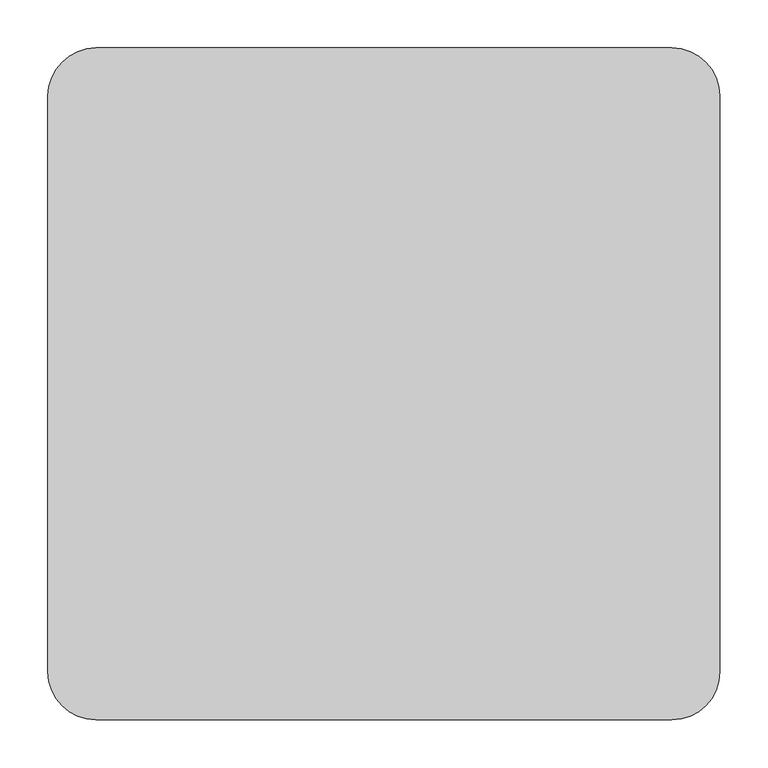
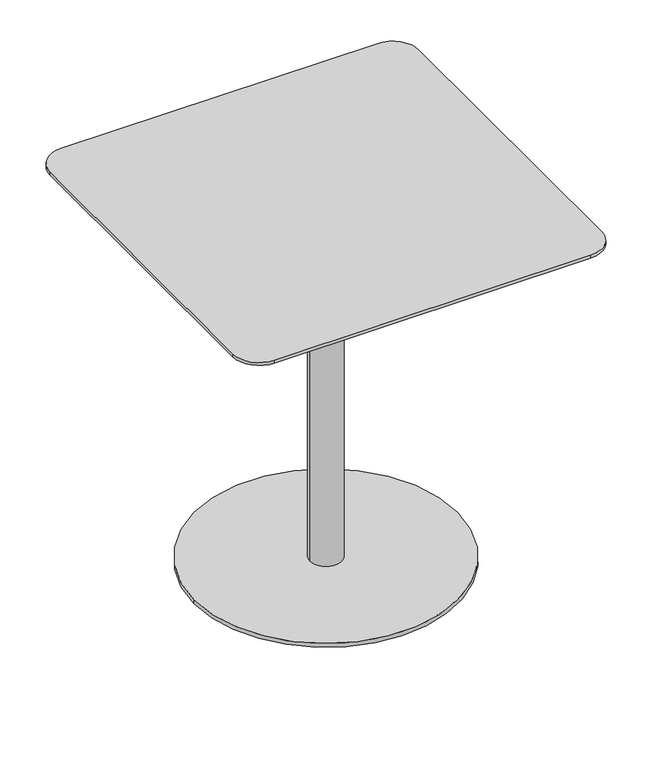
"""IFC4 building model written with IfcOpenShell, lengths in millimetres: furniture geometry, Vestre - Munch - 5134 : Vestre - Munch - 5134."""

from ifc_helpers import new_model, si_unit, point, frame, frame_2d, origin, origin_with_axes, origin_2d, place, context, project, spatial, polyline, circle_curve, trimmed, segment, composite_curve, outline, extrude, source, transform, mapped, element, save


def furniture_e99254da(model_context):
    return source(origin(), model_context, "Body", "SweptSolid", [
        extrude(outline(composite_curve([segment(trimmed(circle_curve(frame_2d((-182.7252773, -105.5634299)), 19.0), [point((-201.7252773, -105.5634299))], [point((-163.7252773, -105.5634299))], False, "CARTESIAN"), True, "CONTINUOUS"), segment(trimmed(circle_curve(frame_2d((-182.7252773, -105.5634299)), 19.0), [point((-163.7252773, -105.5634299))], [point((-201.7252773, -105.5634299))], False, "CARTESIAN"), True, "CONTINUOUS")], self_intersect=False)), origin_with_axes(), (0.0, 0.0, 1.0), 12.0),
        extrude(outline(composite_curve([segment(trimmed(circle_curve(frame_2d((182.7252773, -105.5634299)), 19.0), [point((201.7252773, -105.5634299))], [point((163.7252773, -105.5634299))], False, "CARTESIAN"), True, "CONTINUOUS"), segment(trimmed(circle_curve(frame_2d((182.7252773, -105.5634299)), 19.0), [point((163.7252773, -105.5634299))], [point((201.7252773, -105.5634299))], False, "CARTESIAN"), True, "CONTINUOUS")], self_intersect=False)), origin_with_axes(), (0.0, 0.0, 1.0), 12.0),
        extrude(outline(composite_curve([segment(trimmed(circle_curve(frame_2d((0.0, 211.0)), 19.0), [point((19.0, 211.0))], [point((-19.0, 211.0))], False, "CARTESIAN"), True, "CONTINUOUS"), segment(trimmed(circle_curve(frame_2d((0.0, 211.0)), 19.0), [point((-19.0, 211.0))], [point((19.0, 211.0))], False, "CARTESIAN"), True, "CONTINUOUS")], self_intersect=False)), origin_with_axes(), (0.0, 0.0, 1.0), 12.0),
        extrude(outline(composite_curve([segment(trimmed(circle_curve(origin_2d(), 249.962756), [point((-249.962756, 0.0))], [point((249.962756, 0.0))], False, "CARTESIAN"), True, "CONTINUOUS"), segment(trimmed(circle_curve(origin_2d(), 249.962756), [point((249.962756, 0.0))], [point((-249.962756, 0.0))], False, "CARTESIAN"), True, "CONTINUOUS")], self_intersect=False)), frame((0.0, 0.0, 12.0), z_axis=(0.0, 0.0, 1.0), x_axis=(1.0, 0.0, 0.0)), (0.0, 0.0, 1.0), 7.85),
        extrude(outline(composite_curve([segment(trimmed(circle_curve(origin_2d(), 30.15), [point((-30.15, 0.0))], [point((30.15, 0.0))], False, "CARTESIAN"), True, "CONTINUOUS"), segment(trimmed(circle_curve(origin_2d(), 30.15), [point((30.15, 0.0))], [point((-30.15, 0.0))], False, "CARTESIAN"), True, "CONTINUOUS")], self_intersect=False)), frame((0.0, 0.0, 19.85), z_axis=(0.0, 0.0, 1.0), x_axis=(1.0, 0.0, 0.0)), (0.0, 0.0, 1.0), 704.0),
        extrude(outline(composite_curve([segment(trimmed(circle_curve(frame_2d((-300.0, 300.0)), 50.0), [point((-350.0, 300.0))], [point((-300.0, 350.0))], False, "CARTESIAN"), True, "CONTINUOUS"), segment(polyline([(-300.0, 350.0), (300.0, 350.0)]), True, "CONTINUOUS"), segment(trimmed(circle_curve(frame_2d((300.0, 300.0)), 50.0), [point((300.0, 350.0))], [point((350.0, 300.0))], False, "CARTESIAN"), True, "CONTINUOUS"), segment(polyline([(350.0, 300.0), (350.0, -300.0)]), True, "CONTINUOUS"), segment(trimmed(circle_curve(frame_2d((300.0, -300.0)), 50.0), [point((350.0, -300.0))], [point((300.0, -350.0))], False, "CARTESIAN"), True, "CONTINUOUS"), segment(polyline([(300.0, -350.0), (-300.0, -350.0)]), True, "CONTINUOUS"), segment(trimmed(circle_curve(frame_2d((-300.0, -300.0)), 50.0), [point((-300.0, -350.0))], [point((-350.0, -300.0))], False, "CARTESIAN"), True, "CONTINUOUS"), segment(polyline([(-350.0, -300.0), (-350.0, 300.0)]), True, "CONTINUOUS")], self_intersect=False)), frame((0.0, 0.0, 723.85), z_axis=(0.0, 0.0, 1.0), x_axis=(1.0, 0.0, 0.0)), (0.0, 0.0, 1.0), 5.86),
    ])


if __name__ == "__main__":
    model = new_model("IFC4")
    model_context = context("Model", 3, world=origin())
    ifc_project = project(units=[si_unit("LENGTHUNIT", "METRE", prefix="MILLI")], contexts=[model_context])
    site = spatial("IfcSite", under=ifc_project)
    building = spatial("IfcBuilding", under=site)
    placement = place(None, origin())
    furniture_shape = furniture_e99254da(model_context)
    element("IfcFurniture", 1, ObjectType="Vestre - Munch - 5134 : Vestre - Munch - 5134", at=placement, inside=building, context=model_context, shape_type="MappedRepresentation", body=[
        mapped(furniture_shape, transform((0.0, 0.0, 0.0), x_axis=(1.0, 0.0, 0.0), y_axis=(0.0, 1.0, 0.0), z_axis=(0.0, 0.0, 1.0))),
    ])
    save(model, "model.ifc")
